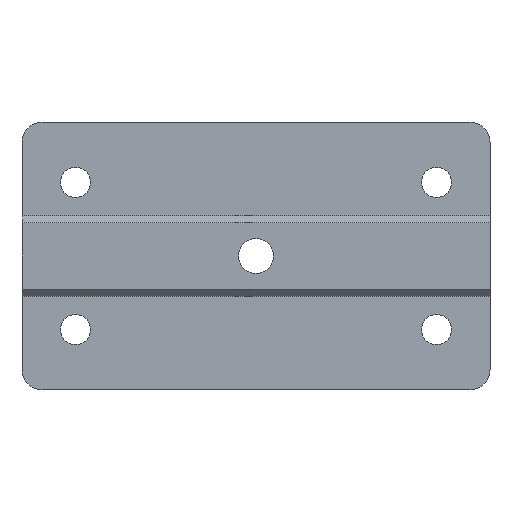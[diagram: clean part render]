
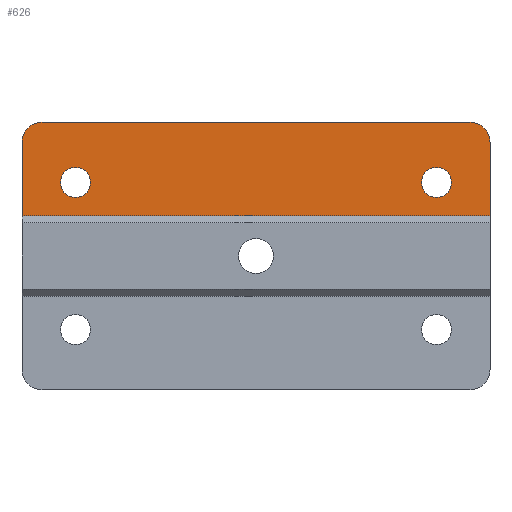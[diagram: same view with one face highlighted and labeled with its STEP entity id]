
A CAD part, front view. The second image highlights one B-rep face of the part: STEP entity #626.
In plain terms, the highlighted planar face has unit normal (0, -1, 0).
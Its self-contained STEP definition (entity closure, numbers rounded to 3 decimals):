
#45=LINE('',#1066,#93);
#46=LINE('',#1069,#94);
#47=LINE('',#1071,#95);
#48=LINE('',#1072,#96);
#93=VECTOR('',#891,10.);
#94=VECTOR('',#894,10.);
#95=VECTOR('',#895,10.);
#96=VECTOR('',#896,10.);
#138=FACE_BOUND('',#221,.T.);
#139=FACE_BOUND('',#222,.T.);
#176=FACE_OUTER_BOUND('',#220,.T.);
#220=EDGE_LOOP('',(#511,#512,#513,#514,#515,#516));
#221=EDGE_LOOP('',(#517));
#222=EDGE_LOOP('',(#518));
#244=CIRCLE('',#666,2.25);
#256=CIRCLE('',#687,2.25);
#273=CIRCLE('',#714,3.);
#274=CIRCLE('',#718,3.);
#280=VERTEX_POINT('',#946);
#292=VERTEX_POINT('',#985);
#309=VERTEX_POINT('',#1036);
#310=VERTEX_POINT('',#1037);
#311=VERTEX_POINT('',#1048);
#312=VERTEX_POINT('',#1049);
#317=VERTEX_POINT('',#1068);
#318=VERTEX_POINT('',#1070);
#334=EDGE_CURVE('',#280,#280,#244,.T.);
#352=EDGE_CURVE('',#292,#292,#256,.T.);
#375=EDGE_CURVE('',#309,#310,#273,.T.);
#382=EDGE_CURVE('',#311,#312,#274,.T.);
#391=EDGE_CURVE('',#312,#309,#45,.T.);
#392=EDGE_CURVE('',#317,#311,#46,.T.);
#393=EDGE_CURVE('',#317,#318,#47,.T.);
#394=EDGE_CURVE('',#310,#318,#48,.T.);
#511=ORIENTED_EDGE('',*,*,#375,.F.);
#512=ORIENTED_EDGE('',*,*,#391,.F.);
#513=ORIENTED_EDGE('',*,*,#382,.F.);
#514=ORIENTED_EDGE('',*,*,#392,.F.);
#515=ORIENTED_EDGE('',*,*,#393,.T.);
#516=ORIENTED_EDGE('',*,*,#394,.F.);
#517=ORIENTED_EDGE('',*,*,#334,.T.);
#518=ORIENTED_EDGE('',*,*,#352,.T.);
#587=PLANE('',#724);
#626=ADVANCED_FACE('',(#176,#138,#139),#587,.T.);
#666=AXIS2_PLACEMENT_3D('',#948,#751,#752);
#687=AXIS2_PLACEMENT_3D('',#987,#799,#800);
#714=AXIS2_PLACEMENT_3D('',#1038,#859,#860);
#718=AXIS2_PLACEMENT_3D('',#1050,#873,#874);
#724=AXIS2_PLACEMENT_3D('',#1067,#892,#893);
#751=DIRECTION('center_axis',(0.,1.,0.));
#752=DIRECTION('ref_axis',(1.,0.,0.));
#799=DIRECTION('center_axis',(0.,1.,0.));
#800=DIRECTION('ref_axis',(1.,0.,0.));
#859=DIRECTION('center_axis',(0.,1.,0.));
#860=DIRECTION('ref_axis',(0.707,0.,0.707));
#873=DIRECTION('center_axis',(0.,1.,0.));
#874=DIRECTION('ref_axis',(-0.707,0.,0.707));
#891=DIRECTION('',(1.,0.,0.));
#892=DIRECTION('center_axis',(0.,-1.,0.));
#893=DIRECTION('ref_axis',(0.,0.,-1.));
#894=DIRECTION('',(0.,0.,1.));
#895=DIRECTION('',(1.,0.,0.));
#896=DIRECTION('',(0.,0.,-1.));
#946=CARTESIAN_POINT('',(24.75,-8.,11.));
#948=CARTESIAN_POINT('Origin',(27.,-8.,11.));
#985=CARTESIAN_POINT('',(-29.25,-8.,11.));
#987=CARTESIAN_POINT('Origin',(-27.,-8.,11.));
#1036=CARTESIAN_POINT('',(32.,-8.,20.));
#1037=CARTESIAN_POINT('',(35.,-8.,17.));
#1038=CARTESIAN_POINT('Origin',(32.,-8.,17.));
#1048=CARTESIAN_POINT('',(-35.,-8.,17.));
#1049=CARTESIAN_POINT('',(-32.,-8.,20.));
#1050=CARTESIAN_POINT('Origin',(-32.,-8.,17.));
#1066=CARTESIAN_POINT('',(0.,-8.,20.));
#1067=CARTESIAN_POINT('Origin',(0.,-8.,20.));
#1068=CARTESIAN_POINT('',(-35.,-8.,6.));
#1069=CARTESIAN_POINT('',(-35.,-8.,20.));
#1070=CARTESIAN_POINT('',(35.,-8.,6.));
#1071=CARTESIAN_POINT('',(0.,-8.,6.));
#1072=CARTESIAN_POINT('',(35.,-8.,20.));
